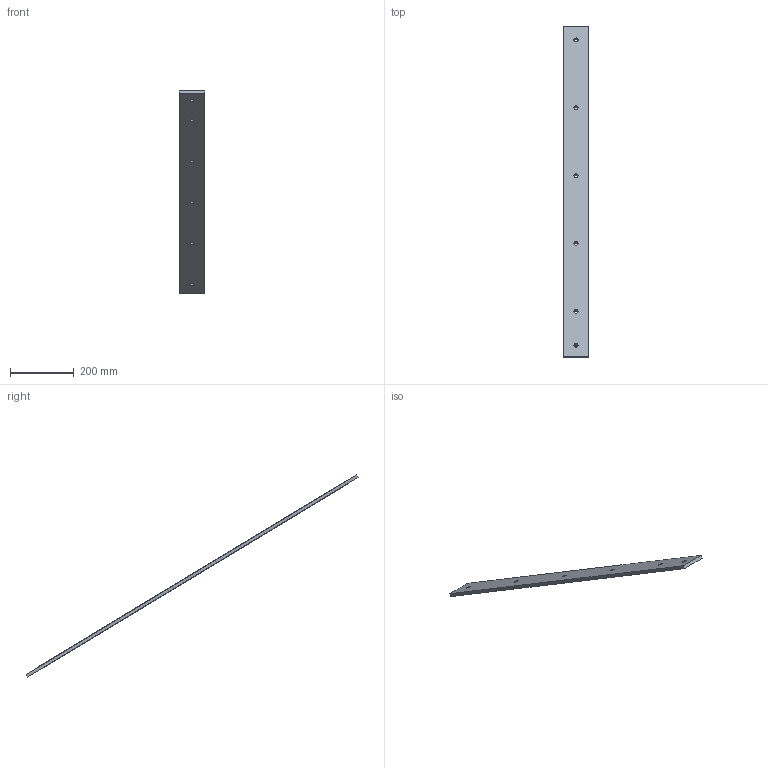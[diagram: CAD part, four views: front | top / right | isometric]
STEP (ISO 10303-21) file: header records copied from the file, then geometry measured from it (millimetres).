
FILE_DESCRIPTION(('Open CASCADE Model'),'2;1');
FILE_NAME('Open CASCADE Shape Model','2026-09-19T12:55:22',('Author'),( 'Open CASCADE'),'Open CASCADE STEP processor 7.9','Open CASCADE 7.9' ,'Unknown');
FILE_SCHEMA(('AUTOMOTIVE_DESIGN { 1 0 10303 214 1 1 1 1 }'));
Length unit declared in the file: millimetre
Products named in the file (1): Open CASCADE STEP translator 7.9 401
Bounding box: 80 x 1045.29 x 636.56 mm (x, y, z)
Volume: 964036.1 mm3; surface area: 221157.7 mm2
Topology: 1 solids, 1 shells, 12 faces, 30 edges, 20 vertices
Faces by surface type: plane 6, cylinder 6
Full cylindrical faces by diameter (mm): 13 x6
Entity records: 790 total; most frequent: DIRECTION 128, CARTESIAN_POINT 123, LINE 66, VECTOR 66, ORIENTED_EDGE 60, PCURVE 60, DEFINITIONAL_REPRESENTATION 60, EDGE_CURVE 30
